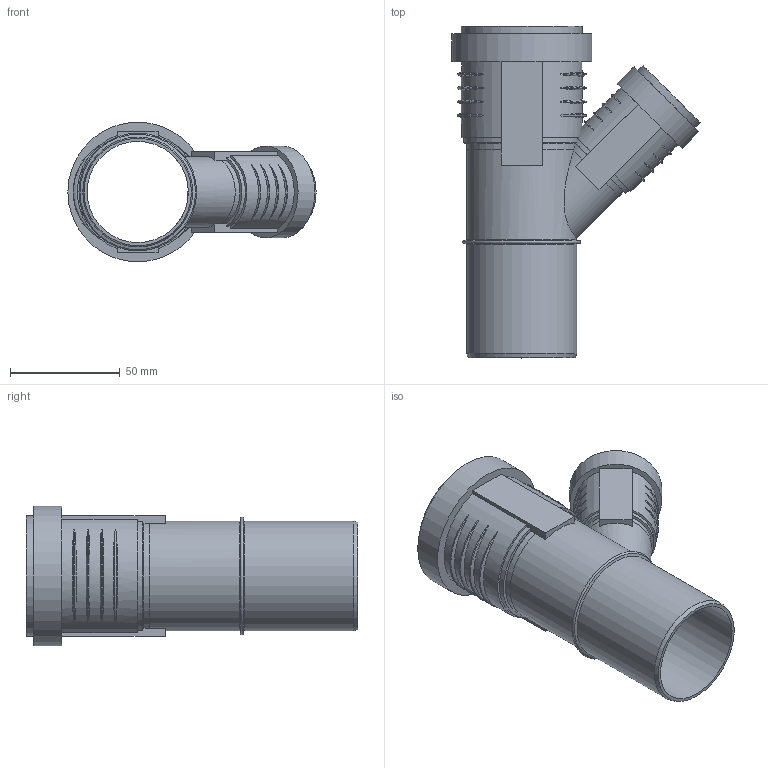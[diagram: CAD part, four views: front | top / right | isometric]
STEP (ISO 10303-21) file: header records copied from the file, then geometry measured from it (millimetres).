
FILE_DESCRIPTION(/* description */ (''),/* implementation_level */ '2;1');
FILE_NAME(/* name */ 'Z:\Geberit\Export\NewStep\390230.stp',/* time_stamp */ '2014-04-02T08:10:20+02:00',/* author */ ('ML'),/* organization */ (''),/* preprocessor_version */ 'ST-DEVELOPER v15.2',/* originating_system */ 'Autodesk Inventor 2014',/* authorisation */ '');
FILE_SCHEMA (('AUTOMOTIVE_DESIGN { 1 0 10303 214 3 1 1 }'));
Length unit declared in the file: millimetre
Products named in the file (4): 861608; 861632; 861401; 390230
Bounding box: 113.18 x 151.3 x 63.7 mm (x, y, z)
Volume: 70903.8 mm3; surface area: 71536.4 mm2
Topology: 3 solids, 3 shells, 128 faces, 317 edges, 220 vertices
Faces by surface type: torus 50, plane 37, cylinder 34, cone 7
Full cylindrical faces by diameter (mm): 28.15 x2, 32.15 x1, 32.8 x2, 36.8 x1, 37.8 x1, 41.8 x1, 46.15 x2, 50.15 x3, 51 x2, 55 x1, 59.7 x1, 63.7 x1
Entity records: 5128 total; most frequent: CARTESIAN_POINT 2112, ORIENTED_EDGE 562, DIRECTION 550, EDGE_CURVE 281, AXIS2_PLACEMENT_3D 239, VERTEX_POINT 210, EDGE_LOOP 187, ADVANCED_FACE 128
